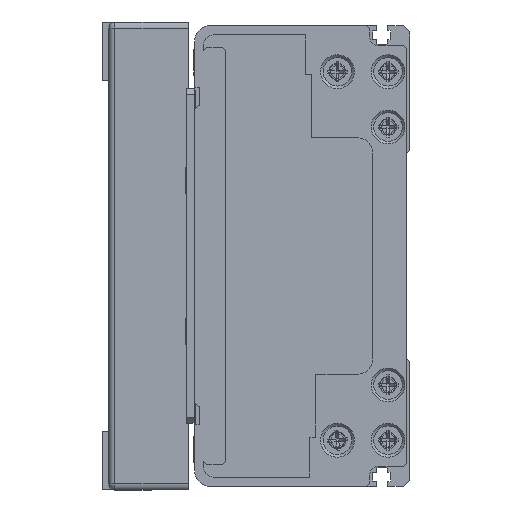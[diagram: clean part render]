
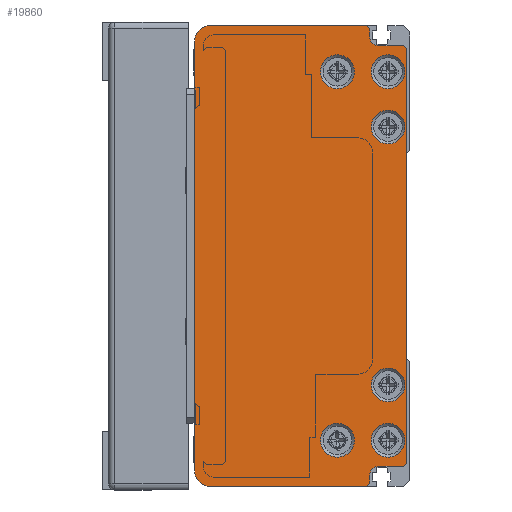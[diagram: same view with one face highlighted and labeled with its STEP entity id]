
A CAD part, left-side view. The second image highlights one B-rep face of the part: STEP entity #19860.
In plain terms, the highlighted planar face has unit normal (-1, 0, 0) as drawn and (0, 0, -1) by its records, which use the part's own axes.
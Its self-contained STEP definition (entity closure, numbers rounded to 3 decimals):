
#934=LINE('',#28722,#2599);
#935=LINE('',#28726,#2600);
#936=LINE('',#28728,#2601);
#937=LINE('',#28730,#2602);
#938=LINE('',#28734,#2603);
#939=LINE('',#28736,#2604);
#940=LINE('',#28738,#2605);
#941=LINE('',#28740,#2606);
#942=LINE('',#28742,#2607);
#943=LINE('',#28746,#2608);
#944=LINE('',#28748,#2609);
#945=LINE('',#28750,#2610);
#2599=VECTOR('',#23323,140.);
#2600=VECTOR('',#23326,51.);
#2601=VECTOR('',#23327,1.414);
#2602=VECTOR('',#23328,2.5);
#2603=VECTOR('',#23331,8.);
#2604=VECTOR('',#23332,1.414);
#2605=VECTOR('',#23333,135.);
#2606=VECTOR('',#23334,1.414);
#2607=VECTOR('',#23335,8.);
#2608=VECTOR('',#23338,2.5);
#2609=VECTOR('',#23339,1.414);
#2610=VECTOR('',#23340,51.);
#4217=PLANE('',#21226);
#4846=FACE_BOUND('',#6688,.T.);
#4847=FACE_BOUND('',#6689,.T.);
#4848=FACE_BOUND('',#6690,.T.);
#4849=FACE_BOUND('',#6691,.T.);
#4850=FACE_BOUND('',#6692,.T.);
#4851=FACE_BOUND('',#6693,.T.);
#5405=FACE_OUTER_BOUND('',#6687,.T.);
#6687=EDGE_LOOP('',(#13947,#13948,#13949,#13950,#13951,#13952,#13953,#13954,
#13955,#13956,#13957,#13958,#13959,#13960,#13961,#13962));
#6688=EDGE_LOOP('',(#13963));
#6689=EDGE_LOOP('',(#13964));
#6690=EDGE_LOOP('',(#13965));
#6691=EDGE_LOOP('',(#13966));
#6692=EDGE_LOOP('',(#13967));
#6693=EDGE_LOOP('',(#13968));
#8199=CIRCLE('',#21227,5.);
#8200=CIRCLE('',#21228,3.);
#8201=CIRCLE('',#21229,3.);
#8202=CIRCLE('',#21230,5.);
#8203=CIRCLE('',#21231,5.5);
#8204=CIRCLE('',#21232,5.5);
#8205=CIRCLE('',#21233,5.5);
#8206=CIRCLE('',#21234,5.5);
#8207=CIRCLE('',#21235,5.5);
#8208=CIRCLE('',#21236,5.5);
#8891=VERTEX_POINT('',#28720);
#8892=VERTEX_POINT('',#28721);
#8893=VERTEX_POINT('',#28723);
#8894=VERTEX_POINT('',#28725);
#8895=VERTEX_POINT('',#28727);
#8896=VERTEX_POINT('',#28729);
#8897=VERTEX_POINT('',#28731);
#8898=VERTEX_POINT('',#28733);
#8899=VERTEX_POINT('',#28735);
#8900=VERTEX_POINT('',#28737);
#8901=VERTEX_POINT('',#28739);
#8902=VERTEX_POINT('',#28741);
#8903=VERTEX_POINT('',#28743);
#8904=VERTEX_POINT('',#28745);
#8905=VERTEX_POINT('',#28747);
#8906=VERTEX_POINT('',#28749);
#8907=VERTEX_POINT('',#28752);
#8908=VERTEX_POINT('',#28754);
#8909=VERTEX_POINT('',#28756);
#8910=VERTEX_POINT('',#28758);
#8911=VERTEX_POINT('',#28760);
#8912=VERTEX_POINT('',#28762);
#10927=EDGE_CURVE('',#8891,#8892,#934,.T.);
#10928=EDGE_CURVE('',#8892,#8893,#8199,.T.);
#10929=EDGE_CURVE('',#8893,#8894,#935,.T.);
#10930=EDGE_CURVE('',#8894,#8895,#936,.T.);
#10931=EDGE_CURVE('',#8895,#8896,#937,.T.);
#10932=EDGE_CURVE('',#8896,#8897,#8200,.T.);
#10933=EDGE_CURVE('',#8897,#8898,#938,.T.);
#10934=EDGE_CURVE('',#8898,#8899,#939,.T.);
#10935=EDGE_CURVE('',#8899,#8900,#940,.T.);
#10936=EDGE_CURVE('',#8900,#8901,#941,.T.);
#10937=EDGE_CURVE('',#8901,#8902,#942,.T.);
#10938=EDGE_CURVE('',#8902,#8903,#8201,.T.);
#10939=EDGE_CURVE('',#8903,#8904,#943,.T.);
#10940=EDGE_CURVE('',#8904,#8905,#944,.T.);
#10941=EDGE_CURVE('',#8905,#8906,#945,.T.);
#10942=EDGE_CURVE('',#8906,#8891,#8202,.T.);
#10943=EDGE_CURVE('',#8907,#8907,#8203,.T.);
#10944=EDGE_CURVE('',#8908,#8908,#8204,.T.);
#10945=EDGE_CURVE('',#8909,#8909,#8205,.T.);
#10946=EDGE_CURVE('',#8910,#8910,#8206,.T.);
#10947=EDGE_CURVE('',#8911,#8911,#8207,.T.);
#10948=EDGE_CURVE('',#8912,#8912,#8208,.T.);
#13947=ORIENTED_EDGE('',*,*,#10927,.T.);
#13948=ORIENTED_EDGE('',*,*,#10928,.T.);
#13949=ORIENTED_EDGE('',*,*,#10929,.T.);
#13950=ORIENTED_EDGE('',*,*,#10930,.T.);
#13951=ORIENTED_EDGE('',*,*,#10931,.T.);
#13952=ORIENTED_EDGE('',*,*,#10932,.T.);
#13953=ORIENTED_EDGE('',*,*,#10933,.T.);
#13954=ORIENTED_EDGE('',*,*,#10934,.T.);
#13955=ORIENTED_EDGE('',*,*,#10935,.T.);
#13956=ORIENTED_EDGE('',*,*,#10936,.T.);
#13957=ORIENTED_EDGE('',*,*,#10937,.T.);
#13958=ORIENTED_EDGE('',*,*,#10938,.T.);
#13959=ORIENTED_EDGE('',*,*,#10939,.T.);
#13960=ORIENTED_EDGE('',*,*,#10940,.T.);
#13961=ORIENTED_EDGE('',*,*,#10941,.T.);
#13962=ORIENTED_EDGE('',*,*,#10942,.T.);
#13963=ORIENTED_EDGE('',*,*,#10943,.T.);
#13964=ORIENTED_EDGE('',*,*,#10944,.T.);
#13965=ORIENTED_EDGE('',*,*,#10945,.T.);
#13966=ORIENTED_EDGE('',*,*,#10946,.T.);
#13967=ORIENTED_EDGE('',*,*,#10947,.T.);
#13968=ORIENTED_EDGE('',*,*,#10948,.T.);
#19860=ADVANCED_FACE('',(#5405,#4846,#4847,#4848,#4849,#4850,#4851),#4217,
 .F.);
#21226=AXIS2_PLACEMENT_3D('',#28719,#23321,#23322);
#21227=AXIS2_PLACEMENT_3D('',#28724,#23324,#23325);
#21228=AXIS2_PLACEMENT_3D('',#28732,#23329,#23330);
#21229=AXIS2_PLACEMENT_3D('',#28744,#23336,#23337);
#21230=AXIS2_PLACEMENT_3D('',#28751,#23341,#23342);
#21231=AXIS2_PLACEMENT_3D('',#28753,#23343,#23344);
#21232=AXIS2_PLACEMENT_3D('',#28755,#23345,#23346);
#21233=AXIS2_PLACEMENT_3D('',#28757,#23347,#23348);
#21234=AXIS2_PLACEMENT_3D('',#28759,#23349,#23350);
#21235=AXIS2_PLACEMENT_3D('',#28761,#23351,#23352);
#21236=AXIS2_PLACEMENT_3D('',#28763,#23353,#23354);
#23321=DIRECTION('center_axis',(0.,0.,
1.));
#23322=DIRECTION('ref_axis',(1.,0.,0.));
#23323=DIRECTION('',(1.,0.,0.));
#23324=DIRECTION('center_axis',(0.,0.,
-1.));
#23325=DIRECTION('ref_axis',(-1.,0.,0.));
#23326=DIRECTION('',(0.,-1.,0.));
#23327=DIRECTION('',(-0.707,-0.707,0.));
#23328=DIRECTION('',(-1.,0.,0.));
#23329=DIRECTION('center_axis',(0.,0.,
1.));
#23330=DIRECTION('ref_axis',(0.,1.,0.));
#23331=DIRECTION('',(0.,-1.,0.));
#23332=DIRECTION('',(-0.707,-0.707,0.));
#23333=DIRECTION('',(-1.,0.,0.));
#23334=DIRECTION('',(-0.707,0.707,0.));
#23335=DIRECTION('',(0.,1.,0.));
#23336=DIRECTION('center_axis',(0.,0.,
1.));
#23337=DIRECTION('ref_axis',(1.,0.,0.));
#23338=DIRECTION('',(-1.,0.,0.));
#23339=DIRECTION('',(-0.707,0.707,0.));
#23340=DIRECTION('',(0.,1.,0.));
#23341=DIRECTION('center_axis',(0.,0.,
-1.));
#23342=DIRECTION('ref_axis',(0.,-1.,0.));
#23343=DIRECTION('center_axis',(0.,0.,
1.));
#23344=DIRECTION('ref_axis',(-1.,0.,0.));
#23345=DIRECTION('center_axis',(0.,0.,
1.));
#23346=DIRECTION('ref_axis',(-1.,0.,0.));
#23347=DIRECTION('center_axis',(0.,0.,
1.));
#23348=DIRECTION('ref_axis',(-1.,0.,0.));
#23349=DIRECTION('center_axis',(0.,0.,
1.));
#23350=DIRECTION('ref_axis',(-1.,0.,0.));
#23351=DIRECTION('center_axis',(0.,0.,
1.));
#23352=DIRECTION('ref_axis',(-1.,0.,0.));
#23353=DIRECTION('center_axis',(0.,0.,
1.));
#23354=DIRECTION('ref_axis',(-1.,0.,0.));
#28719=CARTESIAN_POINT('Origin',(0.25,38.047,-1269.));
#28720=CARTESIAN_POINT('',(-69.75,72.25,-1269.));
#28721=CARTESIAN_POINT('',(70.25,72.25,-1269.));
#28722=CARTESIAN_POINT('',(-69.75,72.25,-1269.));
#28723=CARTESIAN_POINT('',(75.25,67.25,-1269.));
#28724=CARTESIAN_POINT('Origin',(70.25,67.25,-1269.));
#28725=CARTESIAN_POINT('',(75.25,16.25,-1269.));
#28726=CARTESIAN_POINT('',(75.25,67.25,-1269.));
#28727=CARTESIAN_POINT('',(74.25,15.25,-1269.));
#28728=CARTESIAN_POINT('',(75.25,16.25,-1269.));
#28729=CARTESIAN_POINT('',(71.75,15.25,-1269.));
#28730=CARTESIAN_POINT('',(74.25,15.25,-1269.));
#28731=CARTESIAN_POINT('',(68.75,12.25,-1269.));
#28732=CARTESIAN_POINT('Origin',(71.75,12.25,-1269.));
#28733=CARTESIAN_POINT('',(68.75,4.25,-1269.));
#28734=CARTESIAN_POINT('',(68.75,12.25,-1269.));
#28735=CARTESIAN_POINT('',(67.75,3.25,-1269.));
#28736=CARTESIAN_POINT('',(68.75,4.25,-1269.));
#28737=CARTESIAN_POINT('',(-67.25,3.25,-1269.));
#28738=CARTESIAN_POINT('',(67.75,3.25,-1269.));
#28739=CARTESIAN_POINT('',(-68.25,4.25,-1269.));
#28740=CARTESIAN_POINT('',(-67.25,3.25,-1269.));
#28741=CARTESIAN_POINT('',(-68.25,12.25,-1269.));
#28742=CARTESIAN_POINT('',(-68.25,4.25,-1269.));
#28743=CARTESIAN_POINT('',(-71.25,15.25,-1269.));
#28744=CARTESIAN_POINT('Origin',(-71.25,12.25,-1269.));
#28745=CARTESIAN_POINT('',(-73.75,15.25,-1269.));
#28746=CARTESIAN_POINT('',(-71.25,15.25,-1269.));
#28747=CARTESIAN_POINT('',(-74.75,16.25,-1269.));
#28748=CARTESIAN_POINT('',(-73.75,15.25,-1269.));
#28749=CARTESIAN_POINT('',(-74.75,67.25,-1269.));
#28750=CARTESIAN_POINT('',(-74.75,16.25,-1269.));
#28751=CARTESIAN_POINT('Origin',(-69.75,67.25,-1269.));
#28752=CARTESIAN_POINT('',(-47.25,9.25,-1269.));
#28753=CARTESIAN_POINT('Origin',(-41.75,9.25,-1269.));
#28754=CARTESIAN_POINT('',(36.75,9.25,-1269.));
#28755=CARTESIAN_POINT('Origin',(42.25,9.25,-1269.));
#28756=CARTESIAN_POINT('',(-65.25,25.75,-1269.));
#28757=CARTESIAN_POINT('Origin',(-59.75,25.75,-1269.));
#28758=CARTESIAN_POINT('',(54.75,25.75,-1269.));
#28759=CARTESIAN_POINT('Origin',(60.25,25.75,-1269.));
#28760=CARTESIAN_POINT('',(-65.25,9.25,-1269.));
#28761=CARTESIAN_POINT('Origin',(-59.75,9.25,-1269.));
#28762=CARTESIAN_POINT('',(54.75,9.25,-1269.));
#28763=CARTESIAN_POINT('Origin',(60.25,9.25,-1269.));
